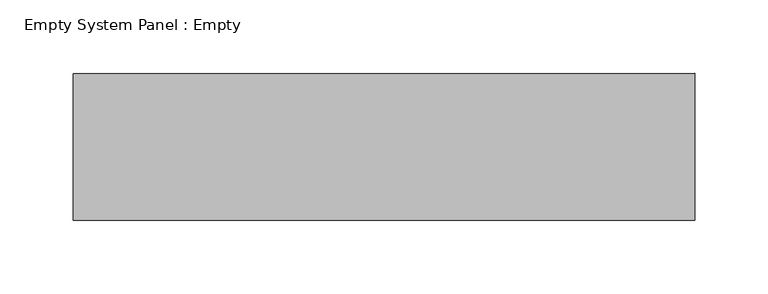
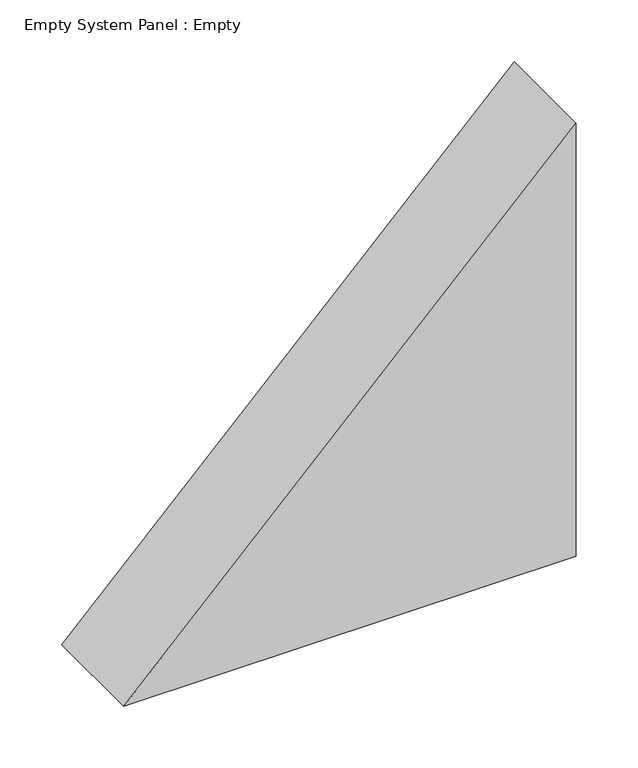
"""IFC4 building model written with IfcOpenShell, lengths in millimetres: plate geometry, Empty System Panel : Empty."""

from ifc_helpers import new_model, si_unit, frame, origin, place, context, project, spatial, polyline, outline, extrude, source, transform, mapped, element, save


def empty_system_panel_empty_8327849a(model_context):
    return source(origin(), model_context, "Body", "SweptSolid", [
        extrude(outline(polyline([(0.0, -211.4764276), (0.0, 211.4764276), (427.6846068, 211.4764276), (0.0, -211.4764276)])), frame((0.0, -50.0, 0.0), z_axis=(0.0, 1.0, 0.0), x_axis=(0.0, 0.0, 1.0)), (0.0, 0.0, 1.0), 100.0),
    ])


if __name__ == "__main__":
    model = new_model("IFC4")
    model_context = context("Model", 3, world=origin())
    ifc_project = project(units=[si_unit("LENGTHUNIT", "METRE", prefix="MILLI")], contexts=[model_context])
    site = spatial("IfcSite", under=ifc_project)
    building = spatial("IfcBuilding", under=site)
    placement = place(None, origin())
    empty_system_panel_empty_shape = empty_system_panel_empty_8327849a(model_context)
    element("IfcPlate", 1, ObjectType="Empty System Panel : Empty", at=placement, inside=building, context=model_context, shape_type="MappedRepresentation", body=[
        mapped(empty_system_panel_empty_shape, transform((0.0, 0.0, 0.0), x_axis=(1.0, 0.0, 0.0), y_axis=(0.0, 1.0, 0.0), z_axis=(0.0, 0.0, 1.0))),
    ])
    save(model, "model.ifc")
